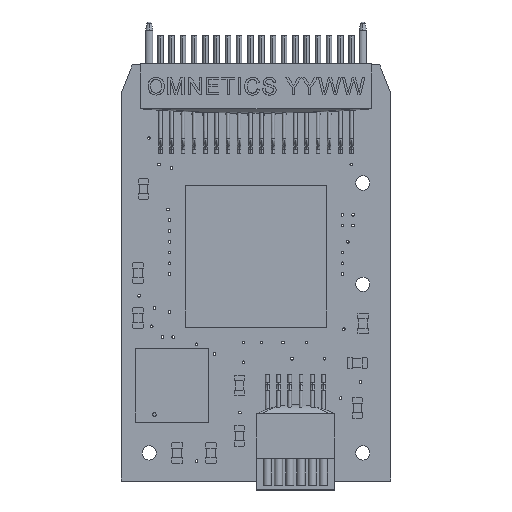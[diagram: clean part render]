
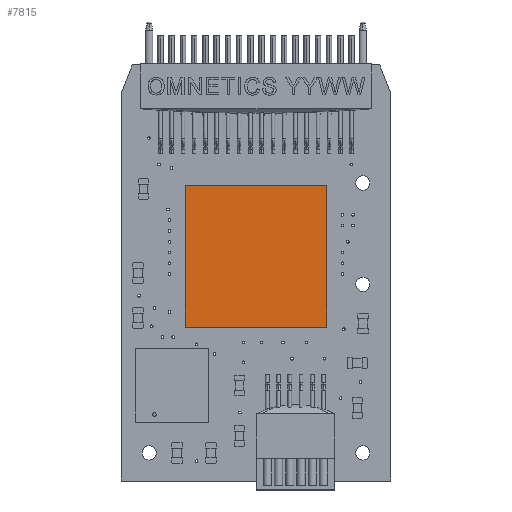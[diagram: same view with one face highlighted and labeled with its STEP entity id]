
A CAD part, top view. The second image highlights one B-rep face of the part: STEP entity #7815.
In plain terms, the highlighted planar face has unit normal (0, 0, 1) as drawn and (0, 1, 0) by its records, which use the part's own axes.
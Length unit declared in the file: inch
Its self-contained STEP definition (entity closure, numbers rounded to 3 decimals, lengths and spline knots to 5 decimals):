
#611 = CARTESIAN_POINT ( 'NONE',  ( 0., 0.03346, -0.31496 ) ) ;
#3397 = LINE ( 'NONE', #30421, #15037 ) ;
#3952 = EDGE_CURVE ( 'NONE', #17330, #7802, #48690, .T. ) ;
#4893 = DIRECTION ( 'NONE',  ( 0., 0., -1. ) ) ;
#5383 = VERTEX_POINT ( 'NONE', #8180 ) ;
#7281 = DIRECTION ( 'NONE',  ( 0., 0., 1. ) ) ;
#7475 = CARTESIAN_POINT ( 'NONE',  ( 0., 0.03346, -0.31496 ) ) ;
#7802 = VERTEX_POINT ( 'NONE', #611 ) ;
#7815 = ADVANCED_FACE ( 'NONE', ( #51056 ), #19363, .F. ) ;
#8180 = CARTESIAN_POINT ( 'NONE',  ( 0.31496, 0.03346, 0. ) ) ;
#9765 = VECTOR ( 'NONE', #16428, 39.37008 ) ;
#14082 = EDGE_CURVE ( 'NONE', #34483, #5383, #19424, .T. ) ;
#15037 = VECTOR ( 'NONE', #7281, 39.37008 ) ;
#16428 = DIRECTION ( 'NONE',  ( -1., 0., 0. ) ) ;
#17232 = ORIENTED_EDGE ( 'NONE', *, *, #3952, .T. ) ;
#17330 = VERTEX_POINT ( 'NONE', #54518 ) ;
#19363 = PLANE ( 'NONE',  #36137 ) ;
#19424 = LINE ( 'NONE', #49927, #45727 ) ;
#22183 = LINE ( 'NONE', #40232, #23523 ) ;
#22474 = EDGE_LOOP ( 'NONE', ( #50891, #43468, #49492, #17232 ) ) ;
#23508 = DIRECTION ( 'NONE',  ( 0., 0., -1. ) ) ;
#23523 = VECTOR ( 'NONE', #4893, 39.37008 ) ;
#30421 = CARTESIAN_POINT ( 'NONE',  ( 0., 0.03346, 0. ) ) ;
#30556 = EDGE_CURVE ( 'NONE', #5383, #17330, #22183, .T. ) ;
#34483 = VERTEX_POINT ( 'NONE', #43959 ) ;
#36137 = AXIS2_PLACEMENT_3D ( 'NONE', #41556, #37422, #23508 ) ;
#37422 = DIRECTION ( 'NONE',  ( 0., -1., 0. ) ) ;
#40232 = CARTESIAN_POINT ( 'NONE',  ( 0.31496, 0.03346, 0. ) ) ;
#41556 = CARTESIAN_POINT ( 'NONE',  ( 0., 0.03346, 0. ) ) ;
#43468 = ORIENTED_EDGE ( 'NONE', *, *, #14082, .T. ) ;
#43959 = CARTESIAN_POINT ( 'NONE',  ( 0., 0.03346, 0. ) ) ;
#45727 = VECTOR ( 'NONE', #55007, 39.37008 ) ;
#48477 = EDGE_CURVE ( 'NONE', #7802, #34483, #3397, .T. ) ;
#48690 = LINE ( 'NONE', #7475, #9765 ) ;
#49492 = ORIENTED_EDGE ( 'NONE', *, *, #30556, .T. ) ;
#49927 = CARTESIAN_POINT ( 'NONE',  ( 0., 0.03346, 0. ) ) ;
#50891 = ORIENTED_EDGE ( 'NONE', *, *, #48477, .T. ) ;
#51056 = FACE_OUTER_BOUND ( 'NONE', #22474, .T. ) ;
#54518 = CARTESIAN_POINT ( 'NONE',  ( 0.31496, 0.03346, -0.31496 ) ) ;
#55007 = DIRECTION ( 'NONE',  ( 1., 0., 0. ) ) ;
